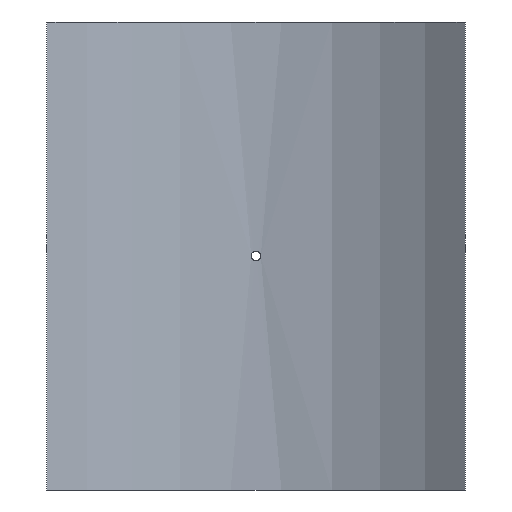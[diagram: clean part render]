
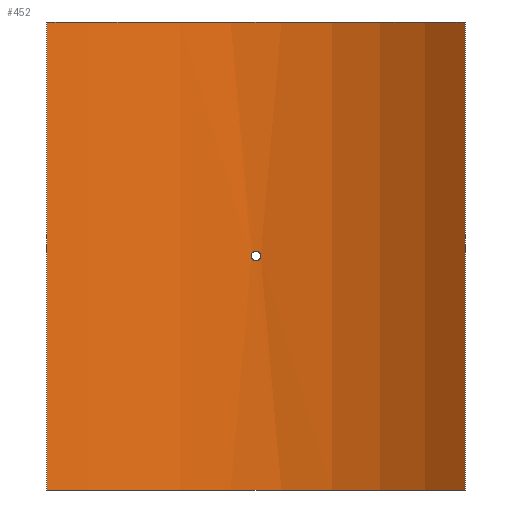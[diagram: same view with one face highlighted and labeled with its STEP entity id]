
A CAD part, front view. The second image highlights one B-rep face of the part: STEP entity #452.
In plain terms, the highlighted cylindrical face has radius 315 mm (diameter 630 mm), a partial arc.
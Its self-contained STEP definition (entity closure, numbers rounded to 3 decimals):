
#19=B_SPLINE_CURVE_WITH_KNOTS('',3,(#788,#789,#790,#791,#792,#793,#794,
#795,#796,#797,#798,#799,#800,#801,#802,#803,#804,#805,#806,#807,#808,#809,
#810,#811,#812,#813,#814,#815,#816,#817,#818,#819,#820,#821),
 .UNSPECIFIED.,.T.,.F.,(4,2,2,2,2,2,2,2,2,2,2,2,2,2,2,2,4),(0.,0.181,
0.362,0.542,0.723,0.904,
1.085,1.266,1.447,1.627,1.808,
1.989,2.17,2.351,2.531,2.712,
2.893),.UNSPECIFIED.);
#43=LINE('',#1065,#62);
#44=LINE('',#1068,#63);
#62=VECTOR('',#661,10.);
#63=VECTOR('',#664,10.);
#76=CYLINDRICAL_SURFACE('',#530,315.);
#88=FACE_BOUND('',#167,.T.);
#127=FACE_OUTER_BOUND('',#166,.T.);
#166=EDGE_LOOP('',(#405,#406,#407,#408));
#167=EDGE_LOOP('',(#409));
#201=CIRCLE('',#529,315.);
#202=CIRCLE('',#531,315.);
#219=VERTEX_POINT('',#786);
#242=VERTEX_POINT('',#1058);
#243=VERTEX_POINT('',#1060);
#244=VERTEX_POINT('',#1064);
#245=VERTEX_POINT('',#1066);
#267=EDGE_CURVE('',#219,#219,#19,.T.);
#299=EDGE_CURVE('',#242,#243,#201,.T.);
#301=EDGE_CURVE('',#244,#242,#43,.T.);
#302=EDGE_CURVE('',#245,#244,#202,.T.);
#303=EDGE_CURVE('',#245,#243,#44,.T.);
#405=ORIENTED_EDGE('',*,*,#301,.F.);
#406=ORIENTED_EDGE('',*,*,#302,.F.);
#407=ORIENTED_EDGE('',*,*,#303,.T.);
#408=ORIENTED_EDGE('',*,*,#299,.F.);
#409=ORIENTED_EDGE('',*,*,#267,.T.);
#452=ADVANCED_FACE('',(#127,#88),#76,.F.);
#529=AXIS2_PLACEMENT_3D('',#1061,#656,#657);
#530=AXIS2_PLACEMENT_3D('',#1063,#659,#660);
#531=AXIS2_PLACEMENT_3D('',#1067,#662,#663);
#656=DIRECTION('center_axis',(0.,0.,1.));
#657=DIRECTION('ref_axis',(0.667,0.745,0.));
#659=DIRECTION('center_axis',(0.,0.,1.));
#660=DIRECTION('ref_axis',(0.667,0.745,0.));
#661=DIRECTION('',(0.,0.,-1.));
#662=DIRECTION('center_axis',(0.,0.,-1.));
#663=DIRECTION('ref_axis',(0.667,0.745,0.));
#664=DIRECTION('',(0.,0.,-1.));
#786=CARTESIAN_POINT('',(4.8,314.963,0.));
#788=CARTESIAN_POINT('Ctrl Pts',(4.8,314.963,0.));
#789=CARTESIAN_POINT('Ctrl Pts',(4.8,314.963,-0.603));
#790=CARTESIAN_POINT('Ctrl Pts',(4.68,314.965,-1.246));
#791=CARTESIAN_POINT('Ctrl Pts',(4.19,314.972,-2.428));
#792=CARTESIAN_POINT('Ctrl Pts',(3.82,314.977,-2.968));
#793=CARTESIAN_POINT('Ctrl Pts',(2.968,314.986,-3.82));
#794=CARTESIAN_POINT('Ctrl Pts',(2.428,314.991,-4.19));
#795=CARTESIAN_POINT('Ctrl Pts',(1.246,314.998,-4.68));
#796=CARTESIAN_POINT('Ctrl Pts',(0.603,315.,-4.8));
#797=CARTESIAN_POINT('Ctrl Pts',(-0.603,315.,-4.8));
#798=CARTESIAN_POINT('Ctrl Pts',(-1.246,314.998,-4.68));
#799=CARTESIAN_POINT('Ctrl Pts',(-2.428,314.991,-4.19));
#800=CARTESIAN_POINT('Ctrl Pts',(-2.968,314.986,-3.82));
#801=CARTESIAN_POINT('Ctrl Pts',(-3.82,314.977,-2.968));
#802=CARTESIAN_POINT('Ctrl Pts',(-4.19,314.972,-2.428));
#803=CARTESIAN_POINT('Ctrl Pts',(-4.68,314.965,-1.246));
#804=CARTESIAN_POINT('Ctrl Pts',(-4.8,314.963,-0.603));
#805=CARTESIAN_POINT('Ctrl Pts',(-4.8,314.963,0.603));
#806=CARTESIAN_POINT('Ctrl Pts',(-4.68,314.965,1.246));
#807=CARTESIAN_POINT('Ctrl Pts',(-4.19,314.972,2.428));
#808=CARTESIAN_POINT('Ctrl Pts',(-3.82,314.977,2.968));
#809=CARTESIAN_POINT('Ctrl Pts',(-2.968,314.986,3.82));
#810=CARTESIAN_POINT('Ctrl Pts',(-2.428,314.991,4.19));
#811=CARTESIAN_POINT('Ctrl Pts',(-1.246,314.998,4.68));
#812=CARTESIAN_POINT('Ctrl Pts',(-0.603,315.,4.8));
#813=CARTESIAN_POINT('Ctrl Pts',(0.603,315.,4.8));
#814=CARTESIAN_POINT('Ctrl Pts',(1.246,314.998,4.68));
#815=CARTESIAN_POINT('Ctrl Pts',(2.428,314.991,4.19));
#816=CARTESIAN_POINT('Ctrl Pts',(2.968,314.986,3.82));
#817=CARTESIAN_POINT('Ctrl Pts',(3.82,314.977,2.968));
#818=CARTESIAN_POINT('Ctrl Pts',(4.19,314.972,2.428));
#819=CARTESIAN_POINT('Ctrl Pts',(4.68,314.965,1.246));
#820=CARTESIAN_POINT('Ctrl Pts',(4.8,314.963,0.603));
#821=CARTESIAN_POINT('Ctrl Pts',(4.8,314.963,0.));
#1058=CARTESIAN_POINT('',(210.,234.787,-235.));
#1060=CARTESIAN_POINT('',(-210.,234.787,-235.));
#1061=CARTESIAN_POINT('Origin',(0.,0.,
-235.));
#1063=CARTESIAN_POINT('Origin',(0.,0.,
0.));
#1064=CARTESIAN_POINT('',(210.,234.787,235.));
#1065=CARTESIAN_POINT('',(210.,234.787,0.));
#1066=CARTESIAN_POINT('',(-210.,234.787,235.));
#1067=CARTESIAN_POINT('Origin',(0.,0.,
235.));
#1068=CARTESIAN_POINT('',(-210.,234.787,0.));
